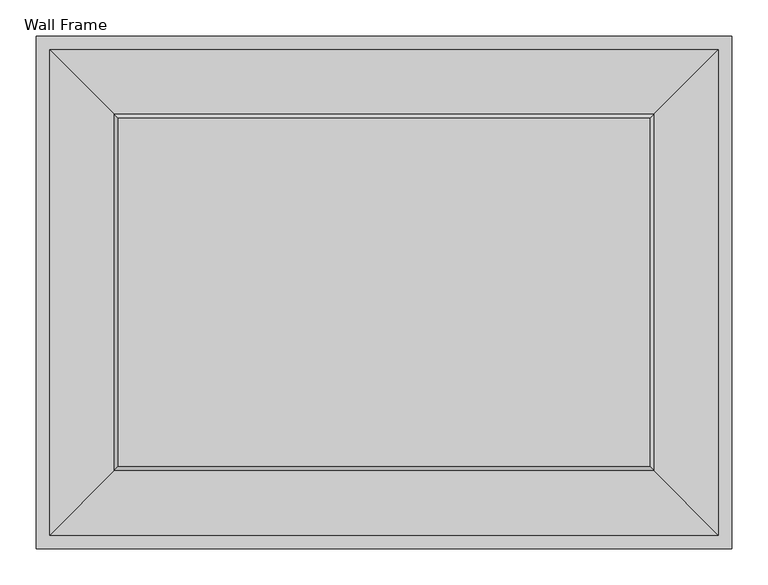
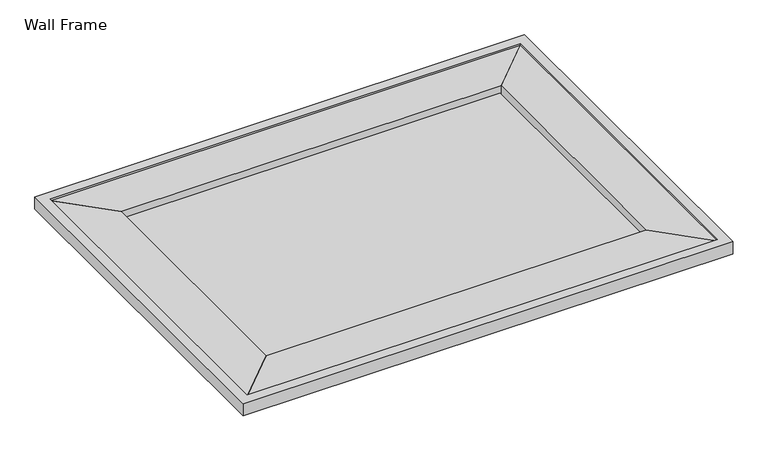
"""IFC4 building model written with IfcOpenShell, lengths in millimetres: furniture geometry."""

from ifc_helpers import new_model, si_unit, origin, origin_with_axes, place, context, project, spatial, polyline, outline, extrude, faceted_brep, source, transform, mapped, element, save


def wall_frame_70131e61(model_context):
    return source(origin(), model_context, "Body", "SolidModel", [
        extrude(outline(polyline([(482.6, 355.6), (482.6, -355.6), (-482.6, -355.6), (-482.6, 355.6), (482.6, 355.6)]), holes=[polyline([(463.55, 336.55), (-463.55, 336.55), (-463.55, -336.55), (463.55, -336.55), (463.55, 336.55)])]), origin_with_axes(), (0.0, 0.0, 1.0), 25.4),
        extrude(outline(polyline([(-374.65, 247.65), (-374.65, -247.65), (-463.55, -336.55), (-463.55, 336.55), (-374.65, 247.65)])), origin_with_axes(), (0.0, 0.0, 1.0), 22.225),
        extrude(outline(polyline([(374.65, -247.65), (374.65, 247.65), (463.55, 336.55), (463.55, -336.55), (374.65, -247.65)])), origin_with_axes(), (0.0, 0.0, 1.0), 22.225),
        faceted_brep([(368.3, 241.3, 12.7), (-368.3, 241.3, 12.7), (-368.3, -241.3, 12.7), (368.3, -241.3, 12.7), (374.65, 247.65, 0.0), (374.65, -247.65, 0.0), (-374.65, -247.65, 0.0), (-374.65, 247.65, 0.0)], [[[0, 1, 2, 3]], [[4, 5, 6, 7]], [[4, 7, 1, 0]], [[7, 6, 2, 1]], [[6, 5, 3, 2]], [[5, 4, 0, 3]]]),
        extrude(outline(polyline([(-374.65, 247.65), (-463.55, 336.55), (463.55, 336.55), (374.65, 247.65), (-374.65, 247.65)])), origin_with_axes(), (0.0, 0.0, 1.0), 22.225),
        extrude(outline(polyline([(374.65, -247.65), (463.55, -336.55), (-463.55, -336.55), (-374.65, -247.65), (374.65, -247.65)])), origin_with_axes(), (0.0, 0.0, 1.0), 22.225),
    ])


if __name__ == "__main__":
    model = new_model("IFC4")
    model_context = context("Model", 3, world=origin())
    ifc_project = project(units=[si_unit("LENGTHUNIT", "METRE", prefix="MILLI")], contexts=[model_context])
    site = spatial("IfcSite", under=ifc_project)
    building = spatial("IfcBuilding", under=site)
    placement = place(None, origin())
    wall_frame_shape = wall_frame_70131e61(model_context)
    element("IfcFurniture", 1, ObjectType="Wall Frame : 3'-2\"W x 2'-4\"H (Painting)", at=placement, inside=building, context=model_context, shape_type="MappedRepresentation", body=[
        mapped(wall_frame_shape, transform((0.0, 0.0, 0.0), x_axis=(1.0, 0.0, 0.0), y_axis=(0.0, 1.0, 0.0), z_axis=(0.0, 0.0, 1.0))),
    ])
    save(model, "model.ifc")
